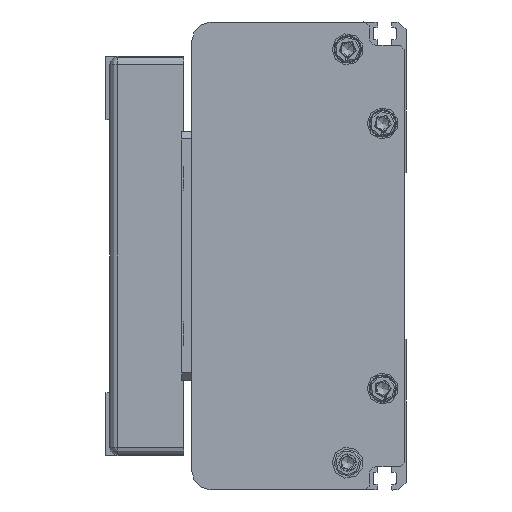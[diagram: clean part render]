
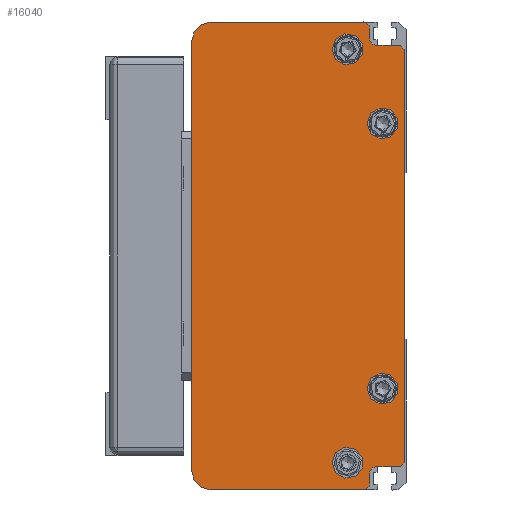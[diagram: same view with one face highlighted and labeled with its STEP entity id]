
A CAD part, left-side view. The second image highlights one B-rep face of the part: STEP entity #16040.
In plain terms, the highlighted planar face has unit normal (-1, 0, 0) as drawn and (0, 0, -1) by its records, which use the part's own axes.
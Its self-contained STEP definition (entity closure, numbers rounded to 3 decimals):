
#858=FACE_BOUND('',#2681,.T.);
#859=FACE_BOUND('',#2682,.T.);
#860=FACE_BOUND('',#2683,.T.);
#861=FACE_BOUND('',#2684,.T.);
#1176=CIRCLE('',#17196,5.);
#1177=CIRCLE('',#17198,5.);
#1178=CIRCLE('',#17199,2.);
#1179=CIRCLE('',#17200,2.);
#1180=CIRCLE('',#17201,4.);
#1181=CIRCLE('',#17202,4.);
#1182=CIRCLE('',#17203,4.);
#1183=CIRCLE('',#17204,4.);
#1622=FACE_OUTER_BOUND('',#2680,.T.);
#2680=EDGE_LOOP('',(#11094,#11095,#11096,#11097,#11098,#11099,#11100,#11101,
#11102,#11103,#11104,#11105,#11106,#11107,#11108,#11109));
#2681=EDGE_LOOP('',(#11110));
#2682=EDGE_LOOP('',(#11111));
#2683=EDGE_LOOP('',(#11112));
#2684=EDGE_LOOP('',(#11113));
#3923=LINE('',#23053,#5460);
#3924=LINE('',#23055,#5461);
#3925=LINE('',#23058,#5462);
#3926=LINE('',#23060,#5463);
#3927=LINE('',#23062,#5464);
#3928=LINE('',#23064,#5465);
#3929=LINE('',#23068,#5466);
#3930=LINE('',#23070,#5467);
#3931=LINE('',#23072,#5468);
#3932=LINE('',#23074,#5469);
#3933=LINE('',#23076,#5470);
#3934=LINE('',#23079,#5471);
#5460=VECTOR('',#18786,1.414);
#5461=VECTOR('',#18787,39.5);
#5462=VECTOR('',#18790,110.);
#5463=VECTOR('',#18791,39.5);
#5464=VECTOR('',#18792,1.414);
#5465=VECTOR('',#18793,3.);
#5466=VECTOR('',#18796,6.);
#5467=VECTOR('',#18797,1.414);
#5468=VECTOR('',#18798,106.);
#5469=VECTOR('',#18799,1.414);
#5470=VECTOR('',#18800,6.);
#5471=VECTOR('',#18803,3.);
#7039=VERTEX_POINT('',#23045);
#7040=VERTEX_POINT('',#23047);
#7041=VERTEX_POINT('',#23051);
#7042=VERTEX_POINT('',#23052);
#7043=VERTEX_POINT('',#23054);
#7044=VERTEX_POINT('',#23056);
#7045=VERTEX_POINT('',#23059);
#7046=VERTEX_POINT('',#23061);
#7047=VERTEX_POINT('',#23063);
#7048=VERTEX_POINT('',#23065);
#7049=VERTEX_POINT('',#23067);
#7050=VERTEX_POINT('',#23069);
#7051=VERTEX_POINT('',#23071);
#7052=VERTEX_POINT('',#23073);
#7053=VERTEX_POINT('',#23075);
#7054=VERTEX_POINT('',#23077);
#7055=VERTEX_POINT('',#23080);
#7056=VERTEX_POINT('',#23082);
#7057=VERTEX_POINT('',#23084);
#7058=VERTEX_POINT('',#23086);
#8651=EDGE_CURVE('',#7039,#7040,#1176,.T.);
#8653=EDGE_CURVE('',#7041,#7042,#3923,.T.);
#8654=EDGE_CURVE('',#7041,#7043,#3924,.T.);
#8655=EDGE_CURVE('',#7044,#7043,#1177,.T.);
#8656=EDGE_CURVE('',#7044,#7040,#3925,.T.);
#8657=EDGE_CURVE('',#7039,#7045,#3926,.T.);
#8658=EDGE_CURVE('',#7046,#7045,#3927,.T.);
#8659=EDGE_CURVE('',#7046,#7047,#3928,.T.);
#8660=EDGE_CURVE('',#7047,#7048,#1178,.T.);
#8661=EDGE_CURVE('',#7048,#7049,#3929,.T.);
#8662=EDGE_CURVE('',#7050,#7049,#3930,.T.);
#8663=EDGE_CURVE('',#7050,#7051,#3931,.T.);
#8664=EDGE_CURVE('',#7052,#7051,#3932,.T.);
#8665=EDGE_CURVE('',#7052,#7053,#3933,.T.);
#8666=EDGE_CURVE('',#7053,#7054,#1179,.T.);
#8667=EDGE_CURVE('',#7054,#7042,#3934,.T.);
#8668=EDGE_CURVE('',#7055,#7055,#1180,.T.);
#8669=EDGE_CURVE('',#7056,#7056,#1181,.T.);
#8670=EDGE_CURVE('',#7057,#7057,#1182,.T.);
#8671=EDGE_CURVE('',#7058,#7058,#1183,.T.);
#11094=ORIENTED_EDGE('',*,*,#8653,.F.);
#11095=ORIENTED_EDGE('',*,*,#8654,.T.);
#11096=ORIENTED_EDGE('',*,*,#8655,.F.);
#11097=ORIENTED_EDGE('',*,*,#8656,.T.);
#11098=ORIENTED_EDGE('',*,*,#8651,.F.);
#11099=ORIENTED_EDGE('',*,*,#8657,.T.);
#11100=ORIENTED_EDGE('',*,*,#8658,.F.);
#11101=ORIENTED_EDGE('',*,*,#8659,.T.);
#11102=ORIENTED_EDGE('',*,*,#8660,.T.);
#11103=ORIENTED_EDGE('',*,*,#8661,.T.);
#11104=ORIENTED_EDGE('',*,*,#8662,.F.);
#11105=ORIENTED_EDGE('',*,*,#8663,.T.);
#11106=ORIENTED_EDGE('',*,*,#8664,.F.);
#11107=ORIENTED_EDGE('',*,*,#8665,.T.);
#11108=ORIENTED_EDGE('',*,*,#8666,.T.);
#11109=ORIENTED_EDGE('',*,*,#8667,.T.);
#11110=ORIENTED_EDGE('',*,*,#8668,.T.);
#11111=ORIENTED_EDGE('',*,*,#8669,.T.);
#11112=ORIENTED_EDGE('',*,*,#8670,.T.);
#11113=ORIENTED_EDGE('',*,*,#8671,.T.);
#15404=PLANE('',#17197);
#16040=ADVANCED_FACE('',(#1622,#858,#859,#860,#861),#15404,.F.);
#17196=AXIS2_PLACEMENT_3D('',#23048,#18781,#18782);
#17197=AXIS2_PLACEMENT_3D('',#23050,#18784,#18785);
#17198=AXIS2_PLACEMENT_3D('',#23057,#18788,#18789);
#17199=AXIS2_PLACEMENT_3D('',#23066,#18794,#18795);
#17200=AXIS2_PLACEMENT_3D('',#23078,#18801,#18802);
#17201=AXIS2_PLACEMENT_3D('',#23081,#18804,#18805);
#17202=AXIS2_PLACEMENT_3D('',#23083,#18806,#18807);
#17203=AXIS2_PLACEMENT_3D('',#23085,#18808,#18809);
#17204=AXIS2_PLACEMENT_3D('',#23087,#18810,#18811);
#18781=DIRECTION('center_axis',(0.,0.,
1.));
#18782=DIRECTION('ref_axis',(0.707,0.707,0.));
#18784=DIRECTION('center_axis',(0.,0.,
1.));
#18785=DIRECTION('ref_axis',(-1.,-0.018,0.));
#18786=DIRECTION('',(0.707,-0.707,0.));
#18787=DIRECTION('',(0.,1.,0.));
#18788=DIRECTION('center_axis',(0.,0.,
1.));
#18789=DIRECTION('ref_axis',(-0.707,0.707,0.));
#18790=DIRECTION('',(1.,0.,0.));
#18791=DIRECTION('',(0.,-1.,0.));
#18792=DIRECTION('',(0.707,0.707,0.));
#18793=DIRECTION('',(-1.,0.,0.));
#18794=DIRECTION('center_axis',(0.,0.,
1.));
#18795=DIRECTION('ref_axis',(0.,-1.,0.));
#18796=DIRECTION('',(0.,-1.,0.));
#18797=DIRECTION('',(0.707,0.707,0.));
#18798=DIRECTION('',(-1.,0.,0.));
#18799=DIRECTION('',(0.707,-0.707,0.));
#18800=DIRECTION('',(0.,1.,0.));
#18801=DIRECTION('center_axis',(0.,0.,
1.));
#18802=DIRECTION('ref_axis',(1.,0.,0.));
#18803=DIRECTION('',(-1.,0.,0.));
#18804=DIRECTION('center_axis',(0.,0.,
1.));
#18805=DIRECTION('ref_axis',(0.,1.,0.));
#18806=DIRECTION('center_axis',(0.,0.,
1.));
#18807=DIRECTION('ref_axis',(0.,1.,0.));
#18808=DIRECTION('center_axis',(0.,0.,
1.));
#18809=DIRECTION('ref_axis',(0.,1.,0.));
#18810=DIRECTION('center_axis',(0.,0.,
1.));
#18811=DIRECTION('ref_axis',(0.,1.,0.));
#23045=CARTESIAN_POINT('',(124.75,50.75,-1292.5));
#23047=CARTESIAN_POINT('',(119.75,55.75,-1292.5));
#23048=CARTESIAN_POINT('Origin',(119.75,50.75,-1292.5));
#23050=CARTESIAN_POINT('Origin',(64.75,28.5,-1292.5));
#23051=CARTESIAN_POINT('',(4.75,11.25,-1292.5));
#23052=CARTESIAN_POINT('',(5.75,10.25,-1292.5));
#23053=CARTESIAN_POINT('',(4.75,11.25,-1292.5));
#23054=CARTESIAN_POINT('',(4.75,50.75,-1292.5));
#23055=CARTESIAN_POINT('',(4.75,11.25,-1292.5));
#23056=CARTESIAN_POINT('',(9.75,55.75,-1292.5));
#23057=CARTESIAN_POINT('Origin',(9.75,50.75,-1292.5));
#23058=CARTESIAN_POINT('',(9.75,55.75,-1292.5));
#23059=CARTESIAN_POINT('',(124.75,11.25,-1292.5));
#23060=CARTESIAN_POINT('',(124.75,50.75,-1292.5));
#23061=CARTESIAN_POINT('',(123.75,10.25,-1292.5));
#23062=CARTESIAN_POINT('',(123.75,10.25,-1292.5));
#23063=CARTESIAN_POINT('',(120.75,10.25,-1292.5));
#23064=CARTESIAN_POINT('',(123.75,10.25,-1292.5));
#23065=CARTESIAN_POINT('',(118.75,8.25,-1292.5));
#23066=CARTESIAN_POINT('Origin',(120.75,8.25,-1292.5));
#23067=CARTESIAN_POINT('',(118.75,2.25,-1292.5));
#23068=CARTESIAN_POINT('',(118.75,8.25,-1292.5));
#23069=CARTESIAN_POINT('',(117.75,1.25,-1292.5));
#23070=CARTESIAN_POINT('',(117.75,1.25,-1292.5));
#23071=CARTESIAN_POINT('',(11.75,1.25,-1292.5));
#23072=CARTESIAN_POINT('',(117.75,1.25,-1292.5));
#23073=CARTESIAN_POINT('',(10.75,2.25,-1292.5));
#23074=CARTESIAN_POINT('',(10.75,2.25,-1292.5));
#23075=CARTESIAN_POINT('',(10.75,8.25,-1292.5));
#23076=CARTESIAN_POINT('',(10.75,2.25,-1292.5));
#23077=CARTESIAN_POINT('',(8.75,10.25,-1292.5));
#23078=CARTESIAN_POINT('Origin',(8.75,8.25,-1292.5));
#23079=CARTESIAN_POINT('',(8.75,10.25,-1292.5));
#23080=CARTESIAN_POINT('',(30.75,10.75,-1292.5));
#23081=CARTESIAN_POINT('Origin',(30.75,6.75,-1292.5));
#23082=CARTESIAN_POINT('',(98.75,10.75,-1292.5));
#23083=CARTESIAN_POINT('Origin',(98.75,6.75,-1292.5));
#23084=CARTESIAN_POINT('',(11.75,19.75,-1292.5));
#23085=CARTESIAN_POINT('Origin',(11.75,15.75,-1292.5));
#23086=CARTESIAN_POINT('',(117.75,19.75,-1292.5));
#23087=CARTESIAN_POINT('Origin',(117.75,15.75,-1292.5));
